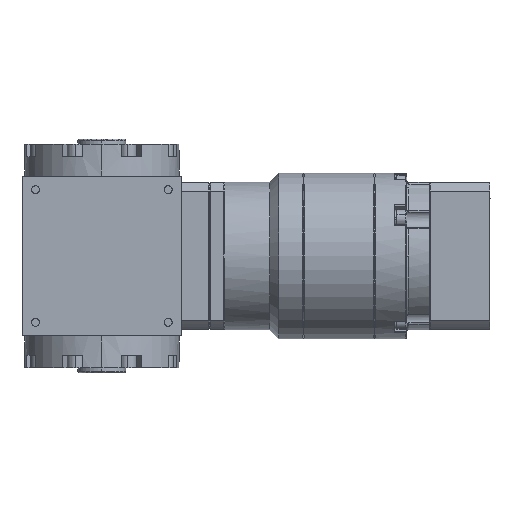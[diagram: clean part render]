
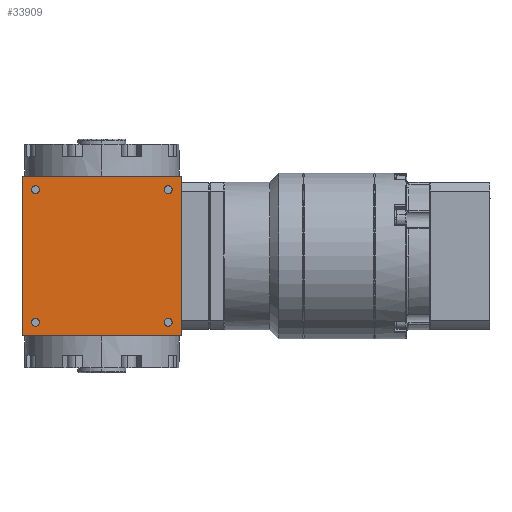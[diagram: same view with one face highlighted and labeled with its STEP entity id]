
A CAD part, left-side view. The second image highlights one B-rep face of the part: STEP entity #33909.
In plain terms, the highlighted planar face has unit normal (-1, 0, 0).
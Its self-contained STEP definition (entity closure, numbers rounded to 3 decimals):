
#1154 = FACE_BOUND ( 'NONE', #18151, .T. ) ;
#1775 = VERTEX_POINT ( 'NONE', #30133 ) ;
#1921 = VECTOR ( 'NONE', #27591, 1000. ) ;
#1994 = CARTESIAN_POINT ( 'NONE',  ( -32.5, -27., -27. ) ) ;
#2194 = EDGE_CURVE ( 'NONE', #17988, #1775, #35990, .T. ) ;
#2400 = DIRECTION ( 'NONE',  ( 0., 0., 1. ) ) ;
#2740 = ORIENTED_EDGE ( 'NONE', *, *, #20115, .F. ) ;
#3208 = CARTESIAN_POINT ( 'NONE',  ( -32.5, 32.5, -32.5 ) ) ;
#3383 = DIRECTION ( 'NONE',  ( 1., 0., 0. ) ) ;
#3757 = AXIS2_PLACEMENT_3D ( 'NONE', #15972, #34239, #40940 ) ;
#4343 = ORIENTED_EDGE ( 'NONE', *, *, #2194, .T. ) ;
#5106 = CARTESIAN_POINT ( 'NONE',  ( -32.5, 27., 27. ) ) ;
#5321 = DIRECTION ( 'NONE',  ( 0., 0., 1. ) ) ;
#5602 = EDGE_CURVE ( 'NONE', #14094, #35575, #43298, .T. ) ;
#5693 = DIRECTION ( 'NONE',  ( 1., 0., 0. ) ) ;
#6009 = DIRECTION ( 'NONE',  ( 0., 0., 1. ) ) ;
#6160 = CARTESIAN_POINT ( 'NONE',  ( -32.5, -27., -28.6 ) ) ;
#6685 = CARTESIAN_POINT ( 'NONE',  ( -32.5, 0., 32.5 ) ) ;
#6870 = CARTESIAN_POINT ( 'NONE',  ( -32.5, 27., -25.4 ) ) ;
#7452 = CARTESIAN_POINT ( 'NONE',  ( -32.5, 27., -27. ) ) ;
#7542 = EDGE_CURVE ( 'NONE', #18964, #39359, #24309, .T. ) ;
#8290 = CARTESIAN_POINT ( 'NONE',  ( -32.5, -27., 25.4 ) ) ;
#8382 = AXIS2_PLACEMENT_3D ( 'NONE', #16429, #17320, #27525 ) ;
#9032 = DIRECTION ( 'NONE',  ( 1., 0., 0. ) ) ;
#9099 = VECTOR ( 'NONE', #24300, 1000. ) ;
#9523 = EDGE_CURVE ( 'NONE', #17574, #26093, #37742, .T. ) ;
#9776 = EDGE_CURVE ( 'NONE', #1775, #17988, #13348, .T. ) ;
#9851 = VERTEX_POINT ( 'NONE', #20824 ) ;
#9889 = VERTEX_POINT ( 'NONE', #17802 ) ;
#10135 = AXIS2_PLACEMENT_3D ( 'NONE', #43746, #19443, #5321 ) ;
#10512 = DIRECTION ( 'NONE',  ( 0., -1., 0. ) ) ;
#11778 = AXIS2_PLACEMENT_3D ( 'NONE', #26385, #37235, #15719 ) ;
#12597 = CARTESIAN_POINT ( 'NONE',  ( -32.5, 27., 28.6 ) ) ;
#13348 = CIRCLE ( 'NONE', #3757, 1.6 ) ;
#13605 = VECTOR ( 'NONE', #10512, 1000. ) ;
#14094 = VERTEX_POINT ( 'NONE', #36900 ) ;
#15158 = AXIS2_PLACEMENT_3D ( 'NONE', #37135, #33654, #2400 ) ;
#15377 = CARTESIAN_POINT ( 'NONE',  ( -32.5, -32.5, -32.5 ) ) ;
#15719 = DIRECTION ( 'NONE',  ( 0., -1., 0. ) ) ;
#15972 = CARTESIAN_POINT ( 'NONE',  ( -32.5, 27., 27. ) ) ;
#16429 = CARTESIAN_POINT ( 'NONE',  ( -32.5, -27., 27. ) ) ;
#16795 = VERTEX_POINT ( 'NONE', #41742 ) ;
#16854 = ORIENTED_EDGE ( 'NONE', *, *, #20216, .T. ) ;
#17104 = LINE ( 'NONE', #3208, #18706 ) ;
#17201 = CIRCLE ( 'NONE', #8382, 1.6 ) ;
#17263 = DIRECTION ( 'NONE',  ( 0., 0., 1. ) ) ;
#17320 = DIRECTION ( 'NONE',  ( 1., 0., 0. ) ) ;
#17574 = VERTEX_POINT ( 'NONE', #6870 ) ;
#17802 = CARTESIAN_POINT ( 'NONE',  ( -32.5, -32.5, 32.5 ) ) ;
#17988 = VERTEX_POINT ( 'NONE', #12597 ) ;
#18151 = EDGE_LOOP ( 'NONE', ( #38104, #18360 ) ) ;
#18360 = ORIENTED_EDGE ( 'NONE', *, *, #34853, .T. ) ;
#18706 = VECTOR ( 'NONE', #6009, 1000. ) ;
#18772 = EDGE_CURVE ( 'NONE', #35575, #14094, #42678, .T. ) ;
#18964 = VERTEX_POINT ( 'NONE', #27739 ) ;
#19436 = DIRECTION ( 'NONE',  ( 0., 0., 1. ) ) ;
#19443 = DIRECTION ( 'NONE',  ( 1., 0., 0. ) ) ;
#20115 = EDGE_CURVE ( 'NONE', #16795, #9889, #38609, .T. ) ;
#20213 = EDGE_CURVE ( 'NONE', #33852, #16795, #17104, .T. ) ;
#20216 = EDGE_CURVE ( 'NONE', #39359, #18964, #17201, .T. ) ;
#20556 = ORIENTED_EDGE ( 'NONE', *, *, #43641, .T. ) ;
#20824 = CARTESIAN_POINT ( 'NONE',  ( -32.5, -32.5, -32.5 ) ) ;
#21011 = CARTESIAN_POINT ( 'NONE',  ( -32.5, 27., -28.6 ) ) ;
#22471 = FACE_BOUND ( 'NONE', #26113, .T. ) ;
#22606 = ORIENTED_EDGE ( 'NONE', *, *, #5602, .T. ) ;
#24300 = DIRECTION ( 'NONE',  ( 0., -1., 0. ) ) ;
#24309 = CIRCLE ( 'NONE', #27255, 1.6 ) ;
#24578 = DIRECTION ( 'NONE',  ( 1., 0., 0. ) ) ;
#24660 = EDGE_CURVE ( 'NONE', #9889, #9851, #32952, .T. ) ;
#25151 = CARTESIAN_POINT ( 'NONE',  ( -32.5, -27., 27. ) ) ;
#25643 = AXIS2_PLACEMENT_3D ( 'NONE', #5106, #9032, #19436 ) ;
#26093 = VERTEX_POINT ( 'NONE', #21011 ) ;
#26113 = EDGE_LOOP ( 'NONE', ( #22606, #35029 ) ) ;
#26277 = CIRCLE ( 'NONE', #15158, 1.6 ) ;
#26385 = CARTESIAN_POINT ( 'NONE',  ( -32.5, 32.5, -32.5 ) ) ;
#27255 = AXIS2_PLACEMENT_3D ( 'NONE', #25151, #3383, #17263 ) ;
#27525 = DIRECTION ( 'NONE',  ( 0., 0., 1. ) ) ;
#27591 = DIRECTION ( 'NONE',  ( 0., 0., -1. ) ) ;
#27739 = CARTESIAN_POINT ( 'NONE',  ( -32.5, -27., 28.6 ) ) ;
#28329 = CARTESIAN_POINT ( 'NONE',  ( -32.5, 0., -32.5 ) ) ;
#28491 = DIRECTION ( 'NONE',  ( 0., 0., 1. ) ) ;
#29676 = ORIENTED_EDGE ( 'NONE', *, *, #24660, .F. ) ;
#30133 = CARTESIAN_POINT ( 'NONE',  ( -32.5, 27., 25.4 ) ) ;
#30303 = FACE_BOUND ( 'NONE', #38364, .T. ) ;
#32952 = LINE ( 'NONE', #15377, #1921 ) ;
#33654 = DIRECTION ( 'NONE',  ( 1., 0., 0. ) ) ;
#33734 = EDGE_LOOP ( 'NONE', ( #44306, #20556, #29676, #2740 ) ) ;
#33852 = VERTEX_POINT ( 'NONE', #42574 ) ;
#33909 = ADVANCED_FACE ( 'NONE', ( #40033, #30303, #44180, #22471, #1154 ), #40489, .T. ) ;
#34239 = DIRECTION ( 'NONE',  ( 1., 0., 0. ) ) ;
#34853 = EDGE_CURVE ( 'NONE', #26093, #17574, #26277, .T. ) ;
#35029 = ORIENTED_EDGE ( 'NONE', *, *, #18772, .T. ) ;
#35575 = VERTEX_POINT ( 'NONE', #6160 ) ;
#35990 = CIRCLE ( 'NONE', #25643, 1.6 ) ;
#36900 = CARTESIAN_POINT ( 'NONE',  ( -32.5, -27., -25.4 ) ) ;
#37135 = CARTESIAN_POINT ( 'NONE',  ( -32.5, 27., -27. ) ) ;
#37235 = DIRECTION ( 'NONE',  ( -1., 0., 0. ) ) ;
#37381 = AXIS2_PLACEMENT_3D ( 'NONE', #1994, #5693, #45013 ) ;
#37742 = CIRCLE ( 'NONE', #43665, 1.6 ) ;
#38104 = ORIENTED_EDGE ( 'NONE', *, *, #9523, .T. ) ;
#38364 = EDGE_LOOP ( 'NONE', ( #4343, #43030 ) ) ;
#38609 = LINE ( 'NONE', #6685, #9099 ) ;
#39359 = VERTEX_POINT ( 'NONE', #8290 ) ;
#39423 = LINE ( 'NONE', #28329, #13605 ) ;
#40033 = FACE_OUTER_BOUND ( 'NONE', #33734, .T. ) ;
#40489 = PLANE ( 'NONE',  #11778 ) ;
#40940 = DIRECTION ( 'NONE',  ( 0., 0., 1. ) ) ;
#41742 = CARTESIAN_POINT ( 'NONE',  ( -32.5, 32.5, 32.5 ) ) ;
#42574 = CARTESIAN_POINT ( 'NONE',  ( -32.5, 32.5, -32.5 ) ) ;
#42678 = CIRCLE ( 'NONE', #10135, 1.6 ) ;
#43030 = ORIENTED_EDGE ( 'NONE', *, *, #9776, .T. ) ;
#43298 = CIRCLE ( 'NONE', #37381, 1.6 ) ;
#43641 = EDGE_CURVE ( 'NONE', #33852, #9851, #39423, .T. ) ;
#43665 = AXIS2_PLACEMENT_3D ( 'NONE', #7452, #24578, #28491 ) ;
#43746 = CARTESIAN_POINT ( 'NONE',  ( -32.5, -27., -27. ) ) ;
#44180 = FACE_BOUND ( 'NONE', #44504, .T. ) ;
#44306 = ORIENTED_EDGE ( 'NONE', *, *, #20213, .F. ) ;
#44504 = EDGE_LOOP ( 'NONE', ( #45189, #16854 ) ) ;
#45013 = DIRECTION ( 'NONE',  ( 0., 0., 1. ) ) ;
#45189 = ORIENTED_EDGE ( 'NONE', *, *, #7542, .T. ) ;
